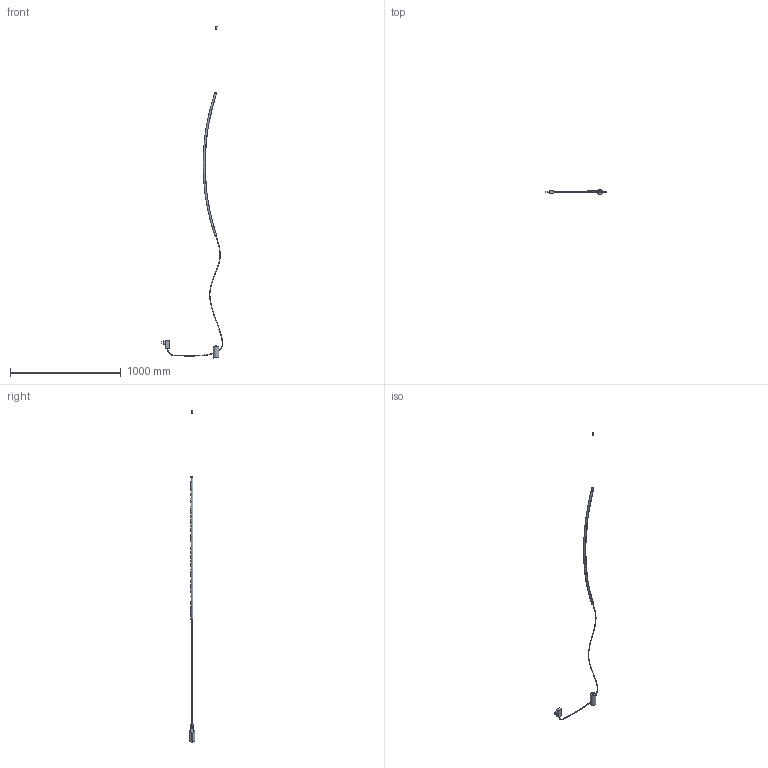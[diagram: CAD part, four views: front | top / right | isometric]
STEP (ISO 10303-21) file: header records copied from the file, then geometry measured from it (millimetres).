
FILE_DESCRIPTION(/* description */ (''),/* implementation_level */ '2;1');
FILE_NAME(/* name */ '1567',/* time_stamp */ '2021-03-15T10:19:26+01:00',/* author */ (''),/* organization */ (''),/* preprocessor_version */ 'ST-DEVELOPER v16.5',/* originating_system */ '',/* authorisation */ '');
FILE_SCHEMA (('CONFIG_CONTROL_DESIGN'));
Length unit declared in the file: millimetre
Products named in the file (1): Document
Bounding box: 550.92 x 49.92 x 3002.69 mm (x, y, z)
Volume: 308669.8 mm3; surface area: 199289.2 mm2
Topology: 10 solids, 14 shells, 56 faces, 99 edges, 63 vertices
Faces by surface type: plane 34, cylinder 12, bspline 10
Full cylindrical faces by diameter (mm): 0.8 x2, 3.5 x2, 5 x2, 10 x2, 15 x1, 18.052 x1, 18.053 x1, 50 x1
Entity records: 3805 total; most frequent: CARTESIAN_POINT 2973, ORIENTED_EDGE 188, EDGE_CURVE 100, VERTEX_POINT 66, ADVANCED_FACE 56, FACE_OUTER_BOUND 56, EDGE_LOOP 56, DIRECTION 52
